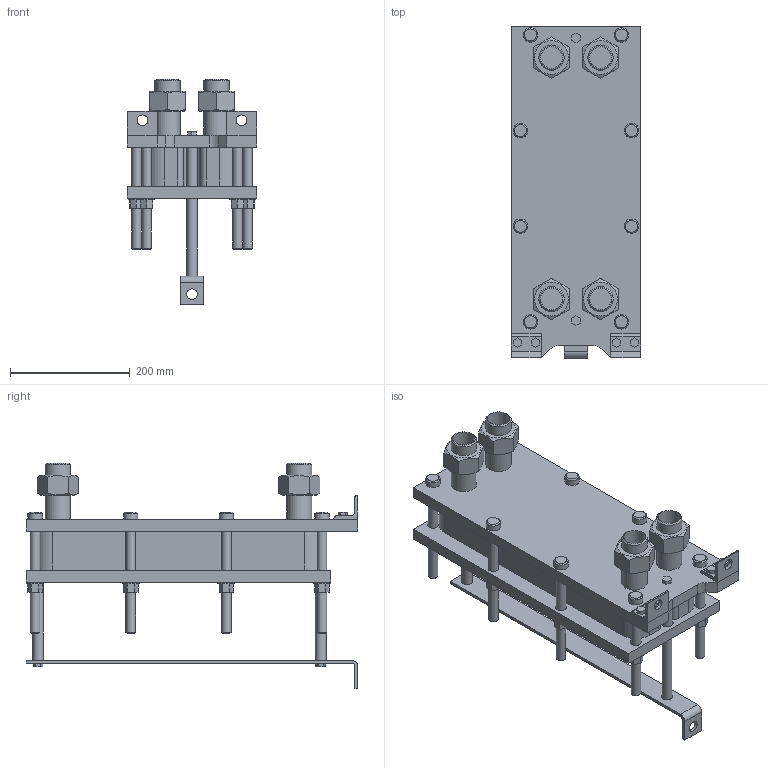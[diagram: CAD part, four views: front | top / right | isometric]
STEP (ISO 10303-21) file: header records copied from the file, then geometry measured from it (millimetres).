
FILE_DESCRIPTION(/* description */ (''),/* implementation_level */ '2;1');
FILE_NAME(/* name */ 'C:\Users\zhuro\Desktop\ENCO\TO\ЭН-004\ЭН-0,5-004-21-1.stp',/* time_stamp */ '2022-06-06T10:45:12+03:00',/* author */ ('zhuro'),/* organization */ (''),/* preprocessor_version */ 'ST-DEVELOPER v18.1',/* originating_system */ 'Autodesk Inventor 2022',/* authorisation */ '');
FILE_SCHEMA (('AUTOMOTIVE_DESIGN { 1 0 10303 214 3 1 1 }'));
Length unit declared in the file: millimetre
Products named in the file (1): ЭН-0,5-004-21-1
Bounding box: 216 x 555 x 377.8 mm (x, y, z)
Volume: 10359440.7 mm3; surface area: 1100082.4 mm2
Topology: 40 solids, 40 shells, 403 faces, 865 edges, 574 vertices
Faces by surface type: plane 272, cylinder 103, cone 28
Full cylindrical faces by diameter (mm): 10 x4, 16 x16, 18 x29, 20 x2, 24 x8, 28 x8, 36.3 x5, 42.3 x9
Entity records: 11137 total; most frequent: CARTESIAN_POINT 1939, DIRECTION 1879, ORIENTED_EDGE 1730, EDGE_CURVE 865, AXIS2_PLACEMENT_3D 658, VERTEX_POINT 574, LINE 563, VECTOR 563
